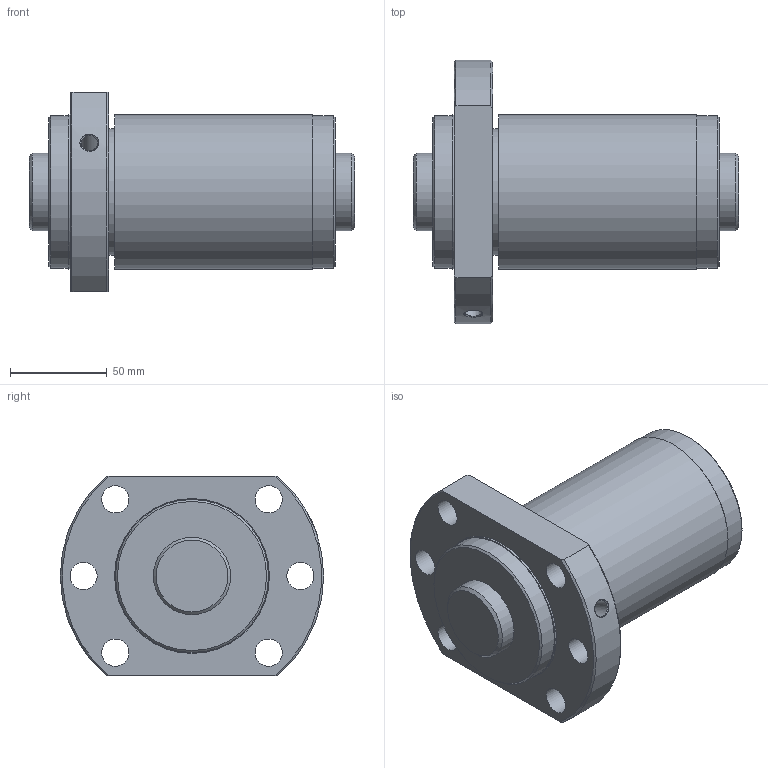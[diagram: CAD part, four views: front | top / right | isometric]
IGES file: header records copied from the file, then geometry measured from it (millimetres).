
Start section: Data from Parasolid IGES Translator 26.0.171, Copyright(c) 2006 Siemens PLM Software. All Rights Reserved.
Global section: file name: SBK4030-7.6RRG0+168LC0(0000).igs; native system: By Siemens PLM Incorporated; preprocessor: XPlus GENERIC/IGES 26.0.171; author: Noname; organization: Noname; date: 20240528.112019; units: millimetre
Bounding box: 168 x 136 x 103 mm (x, y, z)
Surface area: 111801.7 mm2 (no closed solid volume)
Topology: 0 solids, 0 shells, 37 faces, 167 edges, 147 vertices
Faces by surface type: revolution 26, extrusion 11
